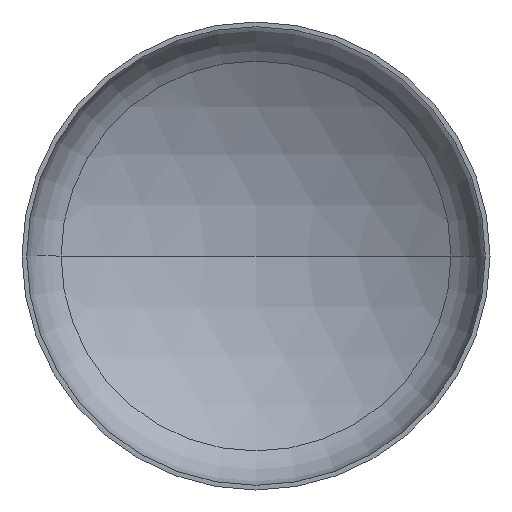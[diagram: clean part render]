
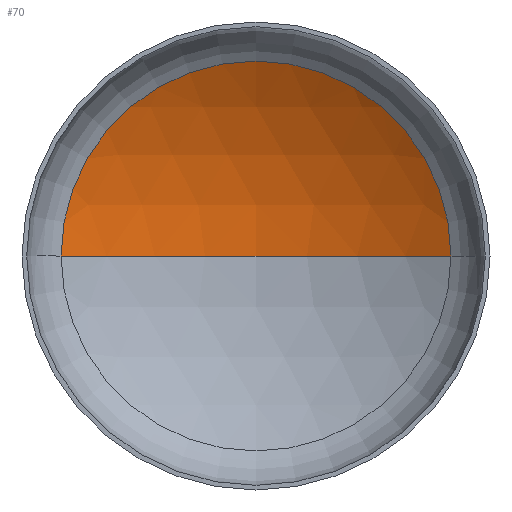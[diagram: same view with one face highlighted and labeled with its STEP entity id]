
A CAD part, front view. The second image highlights one B-rep face of the part: STEP entity #70.
In plain terms, the highlighted spherical face has radius 2400 mm.
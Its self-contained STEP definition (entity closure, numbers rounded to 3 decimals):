
#10 = SPHERICAL_SURFACE ( 'NONE', #52, 2400. ) ;
#17 = CARTESIAN_POINT ( 'NONE',  ( 0., 833.649, 0. ) ) ;
#18 = AXIS2_PLACEMENT_3D ( 'NONE', #116, #376, #208 ) ;
#21 = AXIS2_PLACEMENT_3D ( 'NONE', #351, #295, #117 ) ;
#23 = AXIS2_PLACEMENT_3D ( 'NONE', #101, #110, #107 ) ;
#52 = AXIS2_PLACEMENT_3D ( 'NONE', #196, #232, #290 ) ;
#66 = VERTEX_POINT ( 'NONE', #198 ) ;
#70 = ADVANCED_FACE ( 'NONE', ( #216 ), #10, .F. ) ;
#90 = ORIENTED_EDGE ( 'NONE', *, *, #331, .T. ) ;
#101 = CARTESIAN_POINT ( 'NONE',  ( 0., 482.743, 0. ) ) ;
#105 = CIRCLE ( 'NONE', #23, 1249.485 ) ;
#107 = DIRECTION ( 'NONE',  ( 1., 0., 0. ) ) ;
#110 = DIRECTION ( 'NONE',  ( 0., -1., 0. ) ) ;
#116 = CARTESIAN_POINT ( 'NONE',  ( 0., -1566.351, 0. ) ) ;
#117 = DIRECTION ( 'NONE',  ( -1., 0., 0. ) ) ;
#145 = CIRCLE ( 'NONE', #18, 2400. ) ;
#196 = CARTESIAN_POINT ( 'NONE',  ( 0., -1566.351, 0. ) ) ;
#198 = CARTESIAN_POINT ( 'NONE',  ( 1249.485, 482.743, 0. ) ) ;
#205 = CARTESIAN_POINT ( 'NONE',  ( -1249.485, 482.743, 0. ) ) ;
#208 = DIRECTION ( 'NONE',  ( 1., 0., 0. ) ) ;
#216 = FACE_OUTER_BOUND ( 'NONE', #308, .T. ) ;
#228 = CIRCLE ( 'NONE', #21, 2400. ) ;
#232 = DIRECTION ( 'NONE',  ( 0., 0., -1. ) ) ;
#260 = VERTEX_POINT ( 'NONE', #205 ) ;
#290 = DIRECTION ( 'NONE',  ( -1., 0., 0. ) ) ;
#295 = DIRECTION ( 'NONE',  ( 0., 0., -1. ) ) ;
#298 = ORIENTED_EDGE ( 'NONE', *, *, #334, .F. ) ;
#308 = EDGE_LOOP ( 'NONE', ( #298, #364, #90 ) ) ;
#318 = VERTEX_POINT ( 'NONE', #17 ) ;
#331 = EDGE_CURVE ( 'NONE', #66, #260, #105, .T. ) ;
#333 = EDGE_CURVE ( 'NONE', #318, #66, #228, .T. ) ;
#334 = EDGE_CURVE ( 'NONE', #318, #260, #145, .T. ) ;
#351 = CARTESIAN_POINT ( 'NONE',  ( 0., -1566.351, 0. ) ) ;
#364 = ORIENTED_EDGE ( 'NONE', *, *, #333, .T. ) ;
#376 = DIRECTION ( 'NONE',  ( 0., 0., 1. ) ) ;
